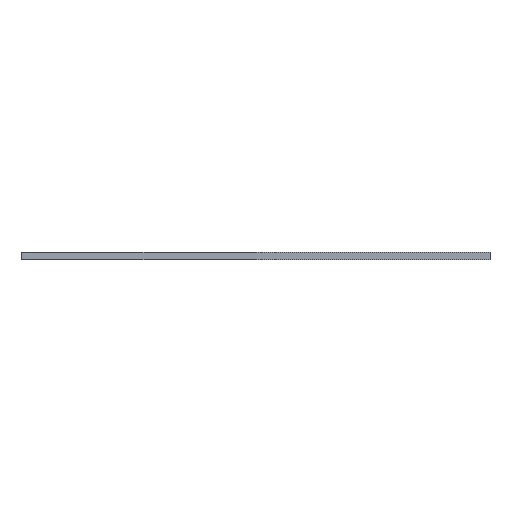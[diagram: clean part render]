
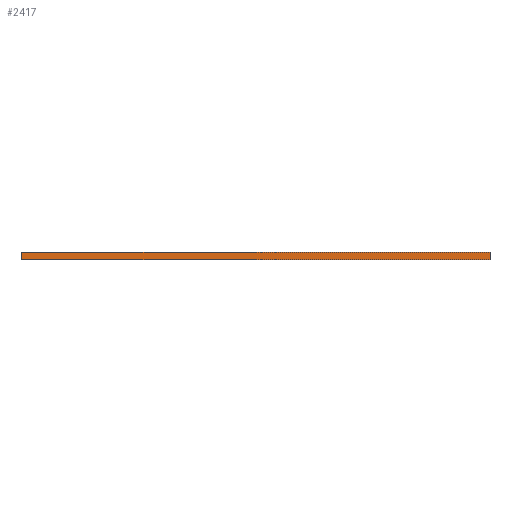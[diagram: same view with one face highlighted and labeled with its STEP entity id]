
A CAD part, front view. The second image highlights one B-rep face of the part: STEP entity #2417.
In plain terms, the highlighted planar face has unit normal (0, -1, 0).
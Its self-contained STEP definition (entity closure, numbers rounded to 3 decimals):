
#2417 = ADVANCED_FACE('',(#2418),#2452,.F.);
#2418 = FACE_BOUND('',#2419,.F.);
#2419 = EDGE_LOOP('',(#2420,#2430,#2438,#2446));
#2420 = ORIENTED_EDGE('',*,*,#2421,.T.);
#2421 = EDGE_CURVE('',#2422,#2424,#2426,.T.);
#2422 = VERTEX_POINT('',#2423);
#2423 = CARTESIAN_POINT('',(-1.15,-7.15,0.025));
#2424 = VERTEX_POINT('',#2425);
#2425 = CARTESIAN_POINT('',(-1.15,-7.15,0.06));
#2426 = LINE('',#2427,#2428);
#2427 = CARTESIAN_POINT('',(-1.15,-7.15,0.025));
#2428 = VECTOR('',#2429,1.);
#2429 = DIRECTION('',(0.,0.,1.));
#2430 = ORIENTED_EDGE('',*,*,#2431,.T.);
#2431 = EDGE_CURVE('',#2424,#2432,#2434,.T.);
#2432 = VERTEX_POINT('',#2433);
#2433 = CARTESIAN_POINT('',(1.15,-7.15,0.06));
#2434 = LINE('',#2435,#2436);
#2435 = CARTESIAN_POINT('',(-1.15,-7.15,0.06));
#2436 = VECTOR('',#2437,1.);
#2437 = DIRECTION('',(1.,0.,0.));
#2438 = ORIENTED_EDGE('',*,*,#2439,.F.);
#2439 = EDGE_CURVE('',#2440,#2432,#2442,.T.);
#2440 = VERTEX_POINT('',#2441);
#2441 = CARTESIAN_POINT('',(1.15,-7.15,0.025));
#2442 = LINE('',#2443,#2444);
#2443 = CARTESIAN_POINT('',(1.15,-7.15,0.025));
#2444 = VECTOR('',#2445,1.);
#2445 = DIRECTION('',(0.,0.,1.));
#2446 = ORIENTED_EDGE('',*,*,#2447,.F.);
#2447 = EDGE_CURVE('',#2422,#2440,#2448,.T.);
#2448 = LINE('',#2449,#2450);
#2449 = CARTESIAN_POINT('',(-1.15,-7.15,0.025));
#2450 = VECTOR('',#2451,1.);
#2451 = DIRECTION('',(1.,0.,0.));
#2452 = PLANE('',#2453);
#2453 = AXIS2_PLACEMENT_3D('',#2454,#2455,#2456);
#2454 = CARTESIAN_POINT('',(-1.15,-7.15,0.025));
#2455 = DIRECTION('',(0.,1.,0.));
#2456 = DIRECTION('',(1.,0.,0.));
